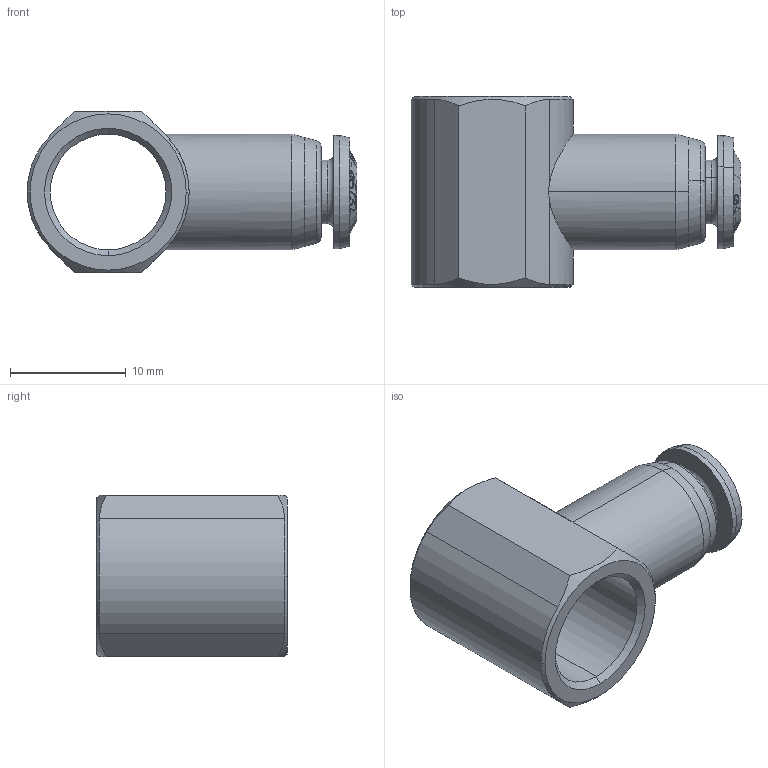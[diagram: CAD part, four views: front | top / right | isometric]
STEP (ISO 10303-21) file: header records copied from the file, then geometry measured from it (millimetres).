
FILE_DESCRIPTION (( 'STEP AP214' ), '1' );
FILE_NAME ('8550000004A.STEP', '2020-05-20T11:07:39', ( 'admin' ), ( '' ), 'SwSTEP 2.0', 'SolidWorks 2016', '' );
FILE_SCHEMA (( 'AUTOMOTIVE_DESIGN' ));
Length unit declared in the file: millimetre
Products named in the file (1): 8550000004A
Bounding box: 28.5 x 16.5 x 14 mm (x, y, z)
Volume: 2174 mm3; surface area: 2091.7 mm2
Topology: 1 solids, 1 shells, 164 faces, 422 edges, 276 vertices
Faces by surface type: bspline 104, cone 31, cylinder 13, plane 12, torus 4
Entity records: 10610 total; most frequent: CARTESIAN_POINT 7291, ORIENTED_EDGE 844, EDGE_CURVE 422, DIRECTION 372, VERTEX_POINT 276, B_SPLINE_CURVE_WITH_KNOTS 222, EDGE_LOOP 182, FACE_OUTER_BOUND 164
